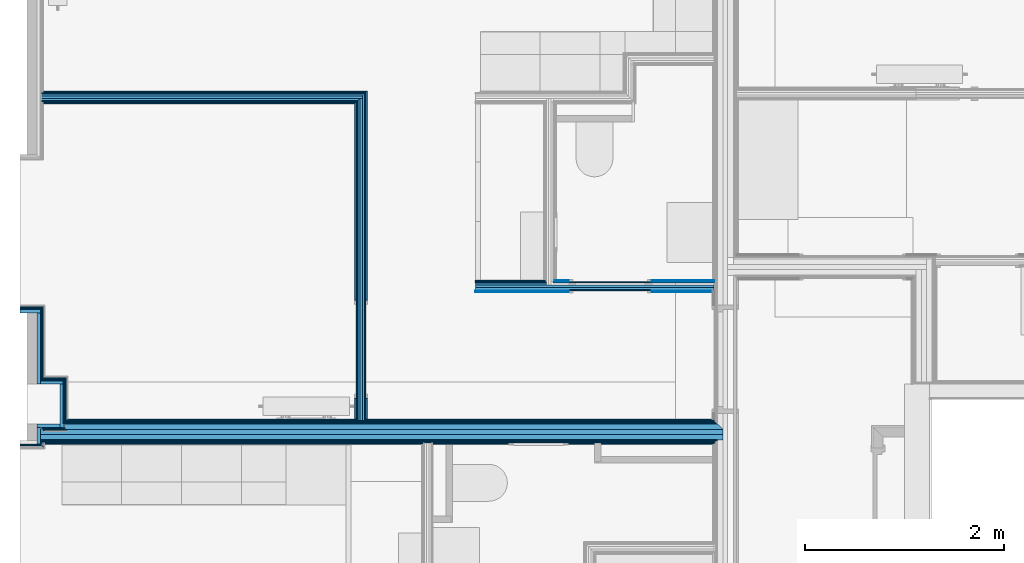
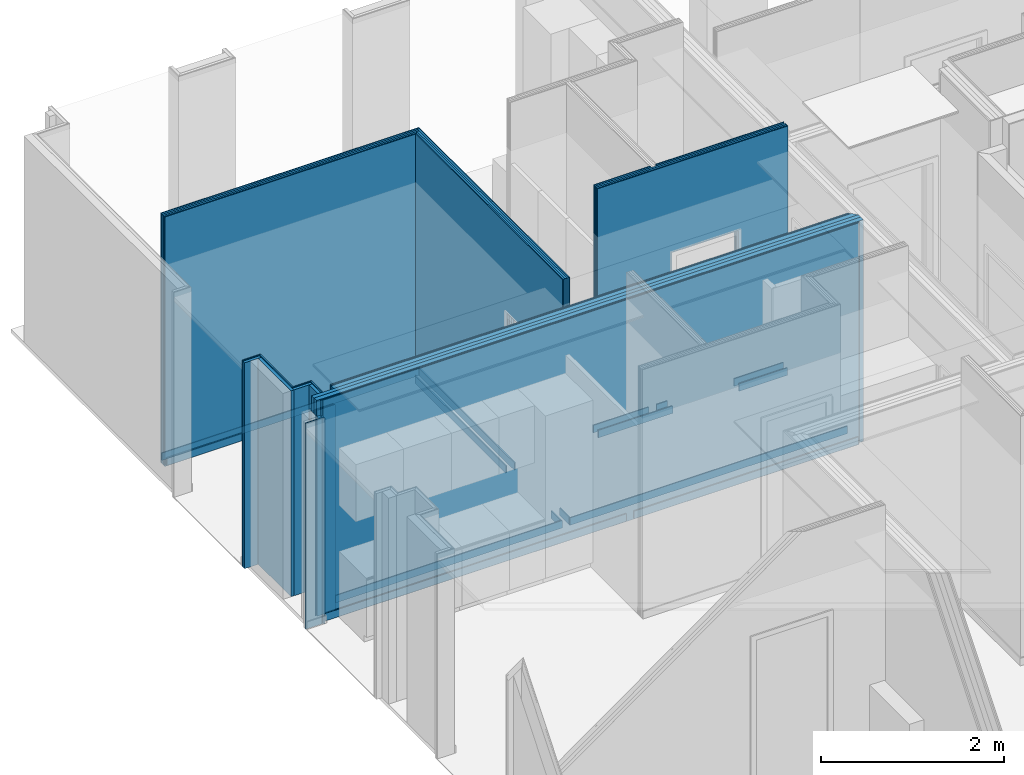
# One storey, part 16 of 65: 53 building element parts, 2 openings, 11 elements without a shape of their own.
"""IFC2X3 building model written with IfcOpenShell, lengths in metres."""

from ifc_helpers import new_model, entity, si_unit, converted_unit, derived_unit, money_unit, direction, frame, frame_2d, origin_with_axes, place, context, subcontext, project, spatial, polyline, rectangle, outline, extrude, material, type_object, element, aggregate, save


model = new_model("IFC2X3")

# Units and contexts
model_context = context("Model", 3, precision=1e-05, world=origin_with_axes(), true_north=direction((0.0, 1.0)))
body_context = subcontext(model_context, "Body", "Model", "MODEL_VIEW", scale=1.0)
ifc_project = project(units=[si_unit("LENGTHUNIT", "METRE"), si_unit("AREAUNIT", "SQUARE_METRE"), si_unit("VOLUMEUNIT", "CUBIC_METRE"), si_unit("ABSORBEDDOSEUNIT", "GRAY"), si_unit("AMOUNTOFSUBSTANCEUNIT", "MOLE"), si_unit("DOSEEQUIVALENTUNIT", "SIEVERT"), si_unit("ELECTRICCAPACITANCEUNIT", "FARAD"), si_unit("ELECTRICCHARGEUNIT", "COULOMB"), si_unit("ELECTRICCONDUCTANCEUNIT", "SIEMENS"), si_unit("ELECTRICCURRENTUNIT", "AMPERE"), si_unit("ELECTRICRESISTANCEUNIT", "OHM"), si_unit("ELECTRICVOLTAGEUNIT", "VOLT"), si_unit("ENERGYUNIT", "JOULE"), si_unit("FORCEUNIT", "NEWTON"), si_unit("FREQUENCYUNIT", "HERTZ"), si_unit("ILLUMINANCEUNIT", "LUX"), si_unit("INDUCTANCEUNIT", "HENRY"), si_unit("LUMINOUSFLUXUNIT", "LUMEN"), si_unit("LUMINOUSINTENSITYUNIT", "CANDELA"), si_unit("MAGNETICFLUXDENSITYUNIT", "TESLA"), si_unit("MAGNETICFLUXUNIT", "WEBER"), si_unit("MASSUNIT", "GRAM"), converted_unit("PLANEANGLEUNIT", "degree", entity("IfcReal", 0.0174532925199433), si_unit("PLANEANGLEUNIT", "RADIAN"), dimensions=[0, 0, 0, 0, 0, 0, 0]), si_unit("POWERUNIT", "WATT"), si_unit("PRESSUREUNIT", "PASCAL"), si_unit("RADIOACTIVITYUNIT", "BECQUEREL"), si_unit("SOLIDANGLEUNIT", "STERADIAN"), si_unit("THERMODYNAMICTEMPERATUREUNIT", "KELVIN"), si_unit("TIMEUNIT", "SECOND"), derived_unit("ACCELERATIONUNIT", [(si_unit("LENGTHUNIT", "METRE"), 1), (si_unit("TIMEUNIT", "SECOND"), -2)]), derived_unit("ANGULARVELOCITYUNIT", [(converted_unit("PLANEANGLEUNIT", "degree", entity("IfcReal", 0.0174532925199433), si_unit("PLANEANGLEUNIT", "RADIAN"), dimensions=[0, 0, 0, 0, 0, 0, 0]), 1), (si_unit("TIMEUNIT", "SECOND"), -1)]), derived_unit("CURVATUREUNIT", [(converted_unit("PLANEANGLEUNIT", "degree", entity("IfcReal", 0.0174532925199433), si_unit("PLANEANGLEUNIT", "RADIAN"), dimensions=[0, 0, 0, 0, 0, 0, 0]), 1), (si_unit("LENGTHUNIT", "METRE"), -1)]), derived_unit("DYNAMICVISCOSITYUNIT", [(si_unit("PRESSUREUNIT", "PASCAL"), 1), (si_unit("TIMEUNIT", "SECOND"), 1)]), derived_unit("HEATFLUXDENSITYUNIT", [(si_unit("POWERUNIT", "WATT"), 1), (si_unit("LENGTHUNIT", "METRE"), -2)]), derived_unit("HEATINGVALUEUNIT", [(si_unit("ENERGYUNIT", "JOULE"), 1), (si_unit("MASSUNIT", "GRAM"), -1)]), derived_unit("INTEGERCOUNTRATEUNIT", [(si_unit("TIMEUNIT", "SECOND"), -1)]), derived_unit("IONCONCENTRATIONUNIT", [(si_unit("MASSUNIT", "GRAM"), 1), (si_unit("VOLUMEUNIT", "CUBIC_METRE"), -1)]), derived_unit("ISOTHERMALMOISTURECAPACITYUNIT", [(si_unit("VOLUMEUNIT", "CUBIC_METRE"), 1), (si_unit("MASSUNIT", "GRAM"), -1)]), derived_unit("KINEMATICVISCOSITYUNIT", [(si_unit("AREAUNIT", "SQUARE_METRE"), 1), (si_unit("TIMEUNIT", "SECOND"), -1)]), derived_unit("LINEARFORCEUNIT", [(si_unit("FORCEUNIT", "NEWTON"), 1), (si_unit("LENGTHUNIT", "METRE"), -1)]), derived_unit("LINEARMOMENTUNIT", [(si_unit("FORCEUNIT", "NEWTON"), 1), (si_unit("LENGTHUNIT", "METRE"), -1)]), derived_unit("LINEARSTIFFNESSUNIT", [(si_unit("FORCEUNIT", "NEWTON"), 1), (si_unit("LENGTHUNIT", "METRE"), -1)]), derived_unit("LINEARVELOCITYUNIT", [(si_unit("LENGTHUNIT", "METRE"), 1), (si_unit("TIMEUNIT", "SECOND"), -1)]), derived_unit("LUMINOUSINTENSITYDISTRIBUTIONUNIT", [(si_unit("LUMINOUSINTENSITYUNIT", "CANDELA"), 1), (si_unit("LUMINOUSFLUXUNIT", "LUMEN"), -1)]), derived_unit("MASSDENSITYUNIT", [(si_unit("MASSUNIT", "GRAM"), 1), (si_unit("VOLUMEUNIT", "CUBIC_METRE"), -1)]), derived_unit("MASSFLOWRATEUNIT", [(si_unit("MASSUNIT", "GRAM"), 1), (si_unit("TIMEUNIT", "SECOND"), -1)]), derived_unit("MASSPERLENGTHUNIT", [(si_unit("MASSUNIT", "GRAM"), 1), (si_unit("LENGTHUNIT", "METRE"), -1)]), derived_unit("MODULUSOFELASTICITYUNIT", [(si_unit("FORCEUNIT", "NEWTON"), 1), (si_unit("AREAUNIT", "SQUARE_METRE"), -1)]), derived_unit("MODULUSOFLINEARSUBGRADEREACTIONUNIT", [(si_unit("FORCEUNIT", "NEWTON"), 1), (si_unit("LENGTHUNIT", "METRE"), -2)]), derived_unit("MODULUSOFROTATIONALSUBGRADEREACTIONUNIT", [(si_unit("FORCEUNIT", "NEWTON"), 1), (si_unit("LENGTHUNIT", "METRE"), 1)]), derived_unit("MODULUSOFSUBGRADEREACTIONUNIT", [(si_unit("FORCEUNIT", "NEWTON"), 1), (si_unit("VOLUMEUNIT", "CUBIC_METRE"), -1)]), derived_unit("MOISTUREDIFFUSIVITYUNIT", [(si_unit("VOLUMEUNIT", "CUBIC_METRE"), 1), (si_unit("TIMEUNIT", "SECOND"), -1)]), derived_unit("MOLECULARWEIGHTUNIT", [(si_unit("MASSUNIT", "GRAM"), 1), (si_unit("AMOUNTOFSUBSTANCEUNIT", "MOLE"), -1)]), derived_unit("PLANARFORCEUNIT", [(si_unit("FORCEUNIT", "NEWTON"), 1), (si_unit("LENGTHUNIT", "METRE"), -2)]), derived_unit("ROTATIONALFREQUENCYUNIT", [(si_unit("TIMEUNIT", "SECOND"), -1)]), derived_unit("ROTATIONALMASSUNIT", [(si_unit("MASSUNIT", "GRAM"), 1), (si_unit("LENGTHUNIT", "METRE"), 2)]), derived_unit("ROTATIONALSTIFFNESSUNIT", [(si_unit("FORCEUNIT", "NEWTON"), 1), (si_unit("LENGTHUNIT", "METRE"), 1), (converted_unit("PLANEANGLEUNIT", "degree", entity("IfcReal", 0.0174532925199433), si_unit("PLANEANGLEUNIT", "RADIAN"), dimensions=[0, 0, 0, 0, 0, 0, 0]), -1)]), derived_unit("SECTIONAREAINTEGRALUNIT", [(si_unit("LENGTHUNIT", "METRE"), 5)]), derived_unit("SECTIONMODULUSUNIT", [(si_unit("LENGTHUNIT", "METRE"), 3)]), derived_unit("SHEARMODULUSUNIT", [(si_unit("FORCEUNIT", "NEWTON"), 1), (si_unit("AREAUNIT", "SQUARE_METRE"), -1)]), derived_unit("SOUNDPOWERUNIT", [(si_unit("ENERGYUNIT", "JOULE"), 1), (si_unit("TIMEUNIT", "SECOND"), -1)]), derived_unit("SPECIFICHEATCAPACITYUNIT", [(si_unit("FORCEUNIT", "NEWTON"), 1), (si_unit("MASSUNIT", "GRAM"), -1), (si_unit("THERMODYNAMICTEMPERATUREUNIT", "KELVIN"), -1)]), derived_unit("TEMPERATUREGRADIENTUNIT", [(si_unit("THERMODYNAMICTEMPERATUREUNIT", "KELVIN"), 1), (si_unit("LENGTHUNIT", "METRE"), -1)]), derived_unit("THERMALADMITTANCEUNIT", [(si_unit("POWERUNIT", "WATT"), 1), (si_unit("AREAUNIT", "SQUARE_METRE"), -1), (si_unit("THERMODYNAMICTEMPERATUREUNIT", "KELVIN"), -1)]), derived_unit("THERMALCONDUCTANCEUNIT", [(si_unit("POWERUNIT", "WATT"), 1), (si_unit("LENGTHUNIT", "METRE"), -1), (si_unit("THERMODYNAMICTEMPERATUREUNIT", "KELVIN"), -1)]), derived_unit("THERMALEXPANSIONCOEFFICIENTUNIT", [(si_unit("THERMODYNAMICTEMPERATUREUNIT", "KELVIN"), -1)]), derived_unit("THERMALRESISTANCEUNIT", [(si_unit("AREAUNIT", "SQUARE_METRE"), 1), (si_unit("POWERUNIT", "WATT"), -1)]), derived_unit("THERMALTRANSMITTANCEUNIT", [(si_unit("POWERUNIT", "WATT"), 1), (si_unit("AREAUNIT", "SQUARE_METRE"), -1), (si_unit("THERMODYNAMICTEMPERATUREUNIT", "KELVIN"), -1)]), derived_unit("TORQUEUNIT", [(si_unit("FORCEUNIT", "NEWTON"), 1), (si_unit("LENGTHUNIT", "METRE"), 1)]), derived_unit("VAPORPERMEABILITYUNIT", [(si_unit("MASSUNIT", "GRAM"), 1), (si_unit("TIMEUNIT", "SECOND"), -1)]), derived_unit("VOLUMETRICFLOWRATEUNIT", [(si_unit("VOLUMEUNIT", "CUBIC_METRE"), 1), (si_unit("TIMEUNIT", "SECOND"), -1)]), derived_unit("WARPINGCONSTANTUNIT", [(si_unit("LENGTHUNIT", "METRE"), 6)]), derived_unit("WARPINGMOMENTUNIT", [(si_unit("FORCEUNIT", "NEWTON"), 1), (si_unit("LENGTHUNIT", "METRE"), 2)]), money_unit("GBP")], contexts=[model_context])

# Site, building, storey
site_placement = place(None, origin_with_axes())
site = spatial("IfcSite", under=ifc_project, at=site_placement, Name="Site", CompositionType="ELEMENT")
building_placement = place(site_placement, origin_with_axes())
building = spatial("IfcBuilding", under=site, at=building_placement, Name="Building01", CompositionType="ELEMENT")
storey_placement = place(building_placement, frame((0.0, 0.0, 8.64), z_axis=(0.0, 0.0, 1.0), x_axis=(1.0, 0.0, 0.0)))
storey = spatial("IfcBuildingStorey", under=building, at=storey_placement, Name="2F", CompositionType="ELEMENT", Elevation=8.64)

# Wall, building element parts
wall_type_1 = type_object("IfcWallType", Name="SHE_A-Walls_Type01c_Partywall_225mm_twin_tall", PredefinedType="NOTDEFINED")
wall_1_placement = place(storey_placement, frame((7.151669, 8.34767, 0.0), z_axis=(0.0, 0.0, 1.0), x_axis=(-1.0, 0.0, 0.0)))
wall_1 = element("IfcWall", 1, at=wall_1_placement, inside=storey, type_object=wall_type_1, Name="1C", ObjectType="SHE_A-Walls_Type01c_Partywall_225mm_twin_tall")
ifc_material_1 = material(Name="A_BSUK_Walls_Timber")
placement_1 = place(wall_1_placement, origin_with_axes())
building_element_part_1 = element("IfcBuildingElementPart", 2, at=placement_1, material=ifc_material_1, Name="1", context=body_context, shape_type="SweptSolid", body=[
    extrude(rectangle(XDim=3.495, YDim=0.015, at=frame_2d((1.8345, -0.0955), x_axis=(-1.0, 0.0))), frame((0.0, 0.0, 0.015), z_axis=(0.0, 0.0, 1.0), x_axis=(1.0, 0.0, 0.0)), (0.0, 0.0, 1.0), 0.1),
])
building_element_part_2 = element("IfcBuildingElementPart", 3, at=placement_1, material=ifc_material_1, Name="2", context=body_context, shape_type="SweptSolid", body=[
    extrude(rectangle(XDim=2.911669, YDim=0.015, at=frame_2d((5.132834, -0.0955), x_axis=(-1.0, 0.0))), frame((0.0, 0.0, 0.015), z_axis=(0.0, 0.0, 1.0), x_axis=(1.0, 0.0, 0.0)), (0.0, 0.0, 1.0), 0.1),
])
ifc_material_2 = material(Name="A_BSUK_WallInternal_Finishes_Plasterboard")
building_element_part_3 = element("IfcBuildingElementPart", 4, at=placement_1, material=ifc_material_2, Name="3", context=body_context, shape_type="SweptSolid", body=[
    extrude(outline(polyline([(6.603669, -0.073), (0.072, -0.073), (0.087, -0.088), (6.603669, -0.088), (6.603669, -0.073)])), origin_with_axes(), (0.0, 0.0, 1.0), 2.95),
])
building_element_part_4 = element("IfcBuildingElementPart", 5, at=placement_1, material=ifc_material_2, Name="4", context=body_context, shape_type="SweptSolid", body=[
    extrude(outline(polyline([(6.603669, -0.058), (0.057, -0.058), (0.072, -0.073), (6.603669, -0.073), (6.603669, -0.058)])), origin_with_axes(), (0.0, 0.0, 1.0), 2.95),
])
ifc_material_3 = material(Name="Air Cavity")
building_element_part_5 = element("IfcBuildingElementPart", 6, at=placement_1, material=ifc_material_3, Name="5", context=body_context, shape_type="SweptSolid", body=[
    extrude(outline(polyline([(6.603669, 0.0), (-0.001, 0.0), (0.057, -0.058), (6.603669, -0.058), (6.603669, 0.0)])), origin_with_axes(), (0.0, 0.0, 1.0), 2.95),
])
ifc_material_4 = material(Name="A_BSUK_Insulation")
building_element_part_6 = element("IfcBuildingElementPart", 7, at=placement_1, material=ifc_material_4, Name="6", context=body_context, shape_type="SweptSolid", body=[
    extrude(rectangle(XDim=6.881669, YDim=0.05, at=frame_2d((3.440834, 0.025), x_axis=(-1.0, 0.0))), origin_with_axes(), (0.0, 0.0, 1.0), 2.95),
])
building_element_part_7 = element("IfcBuildingElementPart", 8, at=placement_1, material=ifc_material_3, Name="7", context=body_context, shape_type="SweptSolid", body=[
    extrude(rectangle(XDim=6.881669, YDim=0.057, at=frame_2d((3.440834, 0.0785), x_axis=(-1.0, 0.0))), origin_with_axes(), (0.0, 0.0, 1.0), 2.95),
])
building_element_part_8 = element("IfcBuildingElementPart", 9, at=placement_1, material=ifc_material_2, Name="8", context=body_context, shape_type="SweptSolid", body=[
    extrude(rectangle(XDim=6.776669, YDim=0.015, at=frame_2d((3.445334, 0.1145), x_axis=(-1.0, 0.0))), origin_with_axes(), (0.0, 0.0, 1.0), 2.95),
])
building_element_part_9 = element("IfcBuildingElementPart", 10, at=placement_1, material=ifc_material_2, Name="9", context=body_context, shape_type="SweptSolid", body=[
    extrude(rectangle(XDim=6.746669, YDim=0.015, at=frame_2d((3.445334, 0.1295), x_axis=(-1.0, 0.0))), origin_with_axes(), (0.0, 0.0, 1.0), 2.95),
])
building_element_part_10 = element("IfcBuildingElementPart", 11, at=placement_1, material=ifc_material_1, Name="10", context=body_context, shape_type="SweptSolid", body=[
    extrude(rectangle(XDim=2.823939, YDim=0.015, at=frame_2d((1.498969, 0.1445), x_axis=(-1.0, 0.0))), frame((0.0, 0.0, 0.015), z_axis=(0.0, 0.0, 1.0), x_axis=(1.0, 0.0, 0.0)), (0.0, 0.0, 1.0), 0.1),
])
building_element_part_11 = element("IfcBuildingElementPart", 12, at=placement_1, material=ifc_material_1, Name="11", context=body_context, shape_type="SweptSolid", body=[
    extrude(rectangle(XDim=3.79773, YDim=0.015, at=frame_2d((4.904804, 0.1445), x_axis=(-1.0, 0.0))), frame((0.0, 0.0, 0.015), z_axis=(0.0, 0.0, 1.0), x_axis=(1.0, 0.0, 0.0)), (0.0, 0.0, 1.0), 0.1),
])
aggregate(wall_1, [building_element_part_1, building_element_part_2, building_element_part_3, building_element_part_4, building_element_part_5, building_element_part_6, building_element_part_7, building_element_part_8, building_element_part_9, building_element_part_10, building_element_part_11])

wall_type_2 = type_object("IfcWallType", Name="SHE_A-Walls_Type05a_Partition_95mm_tall", PredefinedType="NOTDEFINED")
wall_2_placement = place(storey_placement, frame((0.318, 11.69067, 0.0), z_axis=(0.0, 0.0, 1.0), x_axis=(1.0, 0.0, 0.0)))
wall_2 = element("IfcWall", 13, at=wall_2_placement, inside=storey, type_object=wall_type_2, Name="5A", ObjectType="SHE_A-Walls_Type05a_Partition_95mm_tall")
placement_2 = place(wall_2_placement, origin_with_axes())
building_element_part_12 = element("IfcBuildingElementPart", 14, at=placement_2, material=ifc_material_1, Name="1", context=body_context, shape_type="SweptSolid", body=[
    extrude(outline(polyline([(3.156669, -0.06), (0.015, -0.06), (0.015, -0.075), (3.141669, -0.075), (3.156669, -0.06)])), frame((0.0, 0.0, 0.015), z_axis=(0.0, 0.0, 1.0), x_axis=(1.0, 0.0, 0.0)), (0.0, 0.0, 1.0), 0.1),
])
building_element_part_13 = element("IfcBuildingElementPart", 15, at=placement_2, material=ifc_material_2, Name="2", context=body_context, shape_type="SweptSolid", body=[
    extrude(outline(polyline([(3.168669, -0.048), (0.0, -0.048), (0.0, -0.06), (3.156669, -0.06), (3.168669, -0.048)])), origin_with_axes(), (0.0, 0.0, 1.0), 3.32),
])
building_element_part_14 = element("IfcBuildingElementPart", 16, at=placement_2, material=ifc_material_3, Name="3", context=body_context, shape_type="SweptSolid", body=[
    extrude(outline(polyline([(3.191669, -0.025), (0.0, -0.025), (0.0, -0.048), (3.168669, -0.048), (3.191669, -0.025)])), origin_with_axes(), (0.0, 0.0, 1.0), 3.32),
])
building_element_part_15 = element("IfcBuildingElementPart", 17, at=placement_2, material=ifc_material_4, Name="4", context=body_context, shape_type="SweptSolid", body=[
    extrude(rectangle(XDim=3.216669, YDim=0.025, at=frame_2d((1.608334, -0.0125), x_axis=(-1.0, 0.0))), origin_with_axes(), (0.0, 0.0, 1.0), 3.32),
])
building_element_part_16 = element("IfcBuildingElementPart", 18, at=placement_2, material=ifc_material_3, Name="5", context=body_context, shape_type="SweptSolid", body=[
    extrude(rectangle(XDim=3.216669, YDim=0.023, at=frame_2d((1.608334, 0.0115), x_axis=(-1.0, 0.0))), origin_with_axes(), (0.0, 0.0, 1.0), 3.32),
])
building_element_part_17 = element("IfcBuildingElementPart", 19, at=placement_2, material=ifc_material_2, Name="6", context=body_context, shape_type="SweptSolid", body=[
    extrude(outline(polyline([(3.251669, 0.035), (0.0, 0.035), (0.0, 0.023), (3.239669, 0.023), (3.251669, 0.035)])), origin_with_axes(), (0.0, 0.0, 1.0), 3.32),
])
building_element_part_18 = element("IfcBuildingElementPart", 20, at=placement_2, material=ifc_material_1, Name="7", context=body_context, shape_type="SweptSolid", body=[
    extrude(outline(polyline([(3.266669, 0.05), (0.015, 0.05), (0.015, 0.035), (3.251669, 0.035), (3.266669, 0.05)])), frame((0.0, 0.0, 0.015), z_axis=(0.0, 0.0, 1.0), x_axis=(1.0, 0.0, 0.0)), (0.0, 0.0, 1.0), 0.1),
])
aggregate(wall_2, [building_element_part_12, building_element_part_13, building_element_part_14, building_element_part_15, building_element_part_16, building_element_part_17, building_element_part_18])

# Wall, opening, building element parts
wall_3_placement = place(storey_placement, frame((7.064669, 9.79567, 0.0), z_axis=(0.0, 0.0, 1.0), x_axis=(-1.0, 0.0, 0.0)))
wall_3 = element("IfcWall", 21, at=wall_3_placement, inside=storey, type_object=wall_type_2, Name="5A", ObjectType="SHE_A-Walls_Type05a_Partition_95mm_tall")
opening_1_placement = place(wall_3_placement, frame((0.624, -0.05, 0.0), z_axis=(0.0, 0.0, 1.0), x_axis=(1.0, 0.0, 0.0)))
element("IfcOpeningElement", 22, at=opening_1_placement, cuts=wall_3, Name="Opening", ObjectType="Opening", context=body_context, shape_type="SweptSolid", body=[
    extrude(rectangle(XDim=2.142, YDim=0.834, at=frame_2d((-0.417, 1.071), x_axis=(0.0, -1.0))), frame((0.0, 0.0, 0.0), z_axis=(0.0, 1.0, 0.0), x_axis=(-1.0, 0.0, 0.0)), (0.0, 0.0, 1.0), 0.125),
])
placement_3 = place(wall_3_placement, origin_with_axes())
building_element_part_19 = element("IfcBuildingElementPart", 23, at=placement_3, material=ifc_material_1, Name="1", context=body_context, shape_type="SweptSolid", body=[
    extrude(rectangle(XDim=1.6, YDim=0.015, at=frame_2d((0.8, -0.0425), x_axis=(-1.0, 0.0))), frame((0.0, 0.0, 0.015), z_axis=(0.0, 0.0, 1.0), x_axis=(1.0, 0.0, 0.0)), (0.0, 0.0, 1.0), 0.1),
])
building_element_part_20 = element("IfcBuildingElementPart", 24, at=placement_3, material=ifc_material_1, Name="2", context=body_context, shape_type="SweptSolid", body=[
    extrude(rectangle(XDim=0.7, YDim=0.015, at=frame_2d((2.045, -0.0425), x_axis=(-1.0, 0.0))), frame((0.0, 0.0, 0.015), z_axis=(0.0, 0.0, 1.0), x_axis=(1.0, 0.0, 0.0)), (0.0, 0.0, 1.0), 0.1),
])
building_element_part_21 = element("IfcBuildingElementPart", 25, at=placement_3, material=ifc_material_2, Name="3", context=body_context, shape_type="SweptSolid", body=[
    extrude(rectangle(XDim=1.612, YDim=0.012, at=frame_2d((0.806, -0.029), x_axis=(-1.0, 0.0))), origin_with_axes(), (0.0, 0.0, 1.0), 3.32),
])
building_element_part_22 = element("IfcBuildingElementPart", 26, at=placement_3, material=ifc_material_2, Name="4", context=body_context, shape_type="SweptSolid", body=[
    extrude(rectangle(XDim=0.712, YDim=0.012, at=frame_2d((2.039, -0.029), x_axis=(-1.0, 0.0))), origin_with_axes(), (0.0, 0.0, 1.0), 3.32),
])
building_element_part_23 = element("IfcBuildingElementPart", 27, at=placement_3, material=ifc_material_3, Name="5", context=body_context, shape_type="SweptSolid", body=[
    extrude(rectangle(XDim=0.712, YDim=0.023, at=frame_2d((2.039, -0.0115), x_axis=(-1.0, 0.0))), origin_with_axes(), (0.0, 0.0, 1.0), 3.32),
])
building_element_part_24 = element("IfcBuildingElementPart", 28, at=placement_3, material=ifc_material_4, Name="6", context=body_context, shape_type="SweptSolid", body=[
    extrude(rectangle(XDim=2.395, YDim=0.025, at=frame_2d((1.1975, 0.0125), x_axis=(-1.0, 0.0))), origin_with_axes(), (0.0, 0.0, 1.0), 3.32),
])
building_element_part_25 = element("IfcBuildingElementPart", 29, at=placement_3, material=ifc_material_3, Name="7", context=body_context, shape_type="SweptSolid", body=[
    extrude(rectangle(XDim=2.395, YDim=0.023, at=frame_2d((1.1975, 0.0365), x_axis=(-1.0, 0.0))), origin_with_axes(), (0.0, 0.0, 1.0), 3.32),
])
building_element_part_26 = element("IfcBuildingElementPart", 30, at=placement_3, material=ifc_material_2, Name="8", context=body_context, shape_type="SweptSolid", body=[
    extrude(rectangle(XDim=2.395, YDim=0.012, at=frame_2d((1.1975, 0.054), x_axis=(-1.0, 0.0))), origin_with_axes(), (0.0, 0.0, 1.0), 3.32),
])
building_element_part_27 = element("IfcBuildingElementPart", 31, at=placement_3, material=ifc_material_1, Name="9", context=body_context, shape_type="SweptSolid", body=[
    extrude(rectangle(XDim=2.38, YDim=0.015, at=frame_2d((1.205, 0.0675), x_axis=(-1.0, 0.0))), frame((0.0, 0.0, 0.015), z_axis=(0.0, 0.0, 1.0), x_axis=(1.0, 0.0, 0.0)), (0.0, 0.0, 1.0), 0.1),
])
aggregate(wall_3, [building_element_part_19, building_element_part_20, building_element_part_21, building_element_part_22, building_element_part_23, building_element_part_24, building_element_part_25, building_element_part_26, building_element_part_27])

wall_4_placement = place(storey_placement, frame((3.534669, 8.43567, 0.0), z_axis=(0.0, 0.0, 1.0), x_axis=(0.0, 1.0, 0.0)))
wall_4 = element("IfcWall", 32, at=wall_4_placement, inside=storey, type_object=wall_type_2, Name="5A", ObjectType="SHE_A-Walls_Type05a_Partition_95mm_tall")
opening_2_placement = place(wall_4_placement, frame((0.223034, -0.05, 0.0), z_axis=(0.0, 0.0, 1.0), x_axis=(1.0, 0.0, 0.0)))
element("IfcOpeningElement", 33, at=opening_2_placement, cuts=wall_4, Name="Opening", ObjectType="Opening", context=body_context, shape_type="SweptSolid", body=[
    extrude(rectangle(XDim=0.984, YDim=2.142, at=frame_2d((-0.492, 1.071), x_axis=(1.0, 0.0))), frame((0.0, 0.0, 0.0), z_axis=(0.0, 1.0, 0.0), x_axis=(-1.0, 0.0, 0.0)), (0.0, 0.0, 1.0), 0.125),
])
placement_4 = place(wall_4_placement, origin_with_axes())
building_element_part_28 = element("IfcBuildingElementPart", 34, at=placement_4, material=ifc_material_1, Name="1", context=body_context, shape_type="SweptSolid", body=[
    extrude(outline(polyline([(3.29, -0.035), (0.015, -0.035), (0.015, -0.05), (3.305, -0.05), (3.29, -0.035)])), frame((0.0, 0.0, 0.015), z_axis=(0.0, 0.0, 1.0), x_axis=(1.0, 0.0, 0.0)), (0.0, 0.0, 1.0), 0.1),
])
building_element_part_29 = element("IfcBuildingElementPart", 35, at=placement_4, material=ifc_material_2, Name="2", context=body_context, shape_type="SweptSolid", body=[
    extrude(outline(polyline([(3.278, -0.023), (0.0, -0.023), (0.0, -0.035), (3.29, -0.035), (3.278, -0.023)])), origin_with_axes(), (0.0, 0.0, 1.0), 3.32),
])
building_element_part_30 = element("IfcBuildingElementPart", 36, at=placement_4, material=ifc_material_3, Name="3", context=body_context, shape_type="SweptSolid", body=[
    extrude(outline(polyline([(3.255, 0.0), (0.0, 0.0), (0.0, -0.023), (3.278, -0.023), (3.255, 0.0)])), origin_with_axes(), (0.0, 0.0, 1.0), 3.32),
])
building_element_part_31 = element("IfcBuildingElementPart", 37, at=placement_4, material=ifc_material_4, Name="4", context=body_context, shape_type="SweptSolid", body=[
    extrude(rectangle(XDim=3.23, YDim=0.025, at=frame_2d((1.615, 0.0125), x_axis=(-1.0, 0.0))), origin_with_axes(), (0.0, 0.0, 1.0), 3.32),
])
building_element_part_32 = element("IfcBuildingElementPart", 38, at=placement_4, material=ifc_material_3, Name="5", context=body_context, shape_type="SweptSolid", body=[
    extrude(rectangle(XDim=3.23, YDim=0.023, at=frame_2d((1.615, 0.0365), x_axis=(-1.0, 0.0))), origin_with_axes(), (0.0, 0.0, 1.0), 3.32),
])
building_element_part_33 = element("IfcBuildingElementPart", 39, at=placement_4, material=ifc_material_2, Name="6", context=body_context, shape_type="SweptSolid", body=[
    extrude(outline(polyline([(3.195, 0.06), (0.0, 0.06), (0.0, 0.048), (3.207, 0.048), (3.195, 0.06)])), origin_with_axes(), (0.0, 0.0, 1.0), 3.32),
])
building_element_part_34 = element("IfcBuildingElementPart", 40, at=placement_4, material=ifc_material_1, Name="7", context=body_context, shape_type="SweptSolid", body=[
    extrude(outline(polyline([(3.18, 0.075), (0.015, 0.075), (0.015, 0.06), (3.195, 0.06), (3.18, 0.075)])), frame((0.0, 0.0, 0.015), z_axis=(0.0, 0.0, 1.0), x_axis=(1.0, 0.0, 0.0)), (0.0, 0.0, 1.0), 0.1),
])
aggregate(wall_4, [building_element_part_28, building_element_part_29, building_element_part_30, building_element_part_31, building_element_part_32, building_element_part_33, building_element_part_34])

# Wall, building element part
wall_type_3 = type_object("IfcWallType", Name="SHE_A-Walls_Type06f_ExternalWallInsulation_48+15mm", PredefinedType="NOTDEFINED")
wall_5_placement = place(storey_placement, frame((0.27, 8.233, 0.0), z_axis=(0.0, 0.0, 1.0), x_axis=(-1.0, 0.0, 0.0)))
wall_5 = element("IfcWall", 41, at=wall_5_placement, inside=storey, type_object=wall_type_3, Name="6F", ObjectType="SHE_A-Walls_Type06f_ExternalWallInsulation_48+15mm")
building_element_part_35_placement = place(wall_5_placement, origin_with_axes())
building_element_part_35 = element("IfcBuildingElementPart", 42, at=building_element_part_35_placement, material=ifc_material_2, Name="2", context=body_context, shape_type="SweptSolid", body=[
    extrude(rectangle(XDim=0.206, YDim=0.012, at=frame_2d((0.067, 0.042), x_axis=(-1.0, 0.0))), origin_with_axes(), (0.0, 0.0, 1.0), 2.74),
])
aggregate(wall_5, [building_element_part_35])

# Wall, building element parts
wall_6_placement = place(storey_placement, frame((0.5, 8.4, 0.0), z_axis=(0.0, 0.0, 1.0), x_axis=(1.0, 0.0, 0.0)))
wall_6 = element("IfcWall", 43, at=wall_6_placement, inside=storey, type_object=wall_type_3, Name="6F", ObjectType="SHE_A-Walls_Type06f_ExternalWallInsulation_48+15mm")
placement_5 = place(wall_6_placement, origin_with_axes())
building_element_part_36 = element("IfcBuildingElementPart", 44, at=placement_5, material=ifc_material_2, Name="2", context=body_context, shape_type="SweptSolid", body=[
    extrude(outline(polyline([(-0.167, -0.063), (0.063, -0.063), (0.048, -0.048), (-0.167, -0.048), (-0.167, -0.063)])), origin_with_axes(), (0.0, 0.0, 1.0), 2.74),
])
building_element_part_37 = element("IfcBuildingElementPart", 45, at=placement_5, material=ifc_material_2, Name="3", context=body_context, shape_type="SweptSolid", body=[
    extrude(rectangle(XDim=0.23, YDim=0.012, at=frame_2d((-0.067, -0.042), x_axis=(1.0, 0.0))), origin_with_axes(), (0.0, 0.0, 1.0), 2.74),
])
building_element_part_38 = element("IfcBuildingElementPart", 46, at=placement_5, material=ifc_material_4, Name="4", context=body_context, shape_type="SweptSolid", body=[
    extrude(rectangle(XDim=0.23, YDim=0.036, at=frame_2d((-0.115, -0.018), x_axis=(1.0, 0.0))), origin_with_axes(), (0.0, 0.0, 1.0), 2.74),
])
aggregate(wall_6, [building_element_part_36, building_element_part_37, building_element_part_38])

wall_7_placement = place(storey_placement, frame((0.5, 8.8, 0.0), z_axis=(0.0, 0.0, 1.0), x_axis=(0.0, 1.0, 0.0)))
wall_7 = element("IfcWall", 47, at=wall_7_placement, inside=storey, type_object=wall_type_3, Name="6F", ObjectType="SHE_A-Walls_Type06f_ExternalWallInsulation_48+15mm")
placement_6 = place(wall_7_placement, origin_with_axes())
building_element_part_39 = element("IfcBuildingElementPart", 48, at=placement_6, material=ifc_material_2, Name="2", context=body_context, shape_type="SweptSolid", body=[
    extrude(outline(polyline([(-0.36433, -0.063), (0.063, -0.063), (0.048, -0.048), (-0.36433, -0.048), (-0.36433, -0.063)])), origin_with_axes(), (0.0, 0.0, 1.0), 2.74),
])
building_element_part_40 = element("IfcBuildingElementPart", 49, at=placement_6, material=ifc_material_2, Name="3", context=body_context, shape_type="SweptSolid", body=[
    extrude(rectangle(XDim=0.43033, YDim=0.012, at=frame_2d((-0.179165, -0.042), x_axis=(1.0, 0.0))), origin_with_axes(), (0.0, 0.0, 1.0), 2.74),
])
building_element_part_41 = element("IfcBuildingElementPart", 50, at=placement_6, material=ifc_material_4, Name="4", context=body_context, shape_type="SweptSolid", body=[
    extrude(rectangle(XDim=0.436, YDim=0.036, at=frame_2d((-0.218, -0.018), x_axis=(1.0, 0.0))), origin_with_axes(), (0.0, 0.0, 1.0), 2.74),
])
aggregate(wall_7, [building_element_part_39, building_element_part_40, building_element_part_41])

wall_8_placement = place(storey_placement, frame((0.306, 8.8, 0.0), z_axis=(0.0, 0.0, 1.0), x_axis=(-1.0, 0.0, 0.0)))
wall_8 = element("IfcWall", 51, at=wall_8_placement, inside=storey, type_object=wall_type_3, Name="6F", ObjectType="SHE_A-Walls_Type06f_ExternalWallInsulation_48+15mm")
placement_7 = place(wall_8_placement, origin_with_axes())
building_element_part_42 = element("IfcBuildingElementPart", 52, at=placement_7, material=ifc_material_2, Name="2", context=body_context, shape_type="SweptSolid", body=[
    extrude(outline(polyline([(-0.257, -0.063), (-0.027, -0.063), (-0.012, -0.048), (-0.242, -0.048), (-0.257, -0.063)])), origin_with_axes(), (0.0, 0.0, 1.0), 2.74),
])
building_element_part_43 = element("IfcBuildingElementPart", 53, at=placement_7, material=ifc_material_2, Name="3", context=body_context, shape_type="SweptSolid", body=[
    extrude(rectangle(XDim=0.242, YDim=0.012, at=frame_2d((-0.121, -0.042), x_axis=(1.0, 0.0))), origin_with_axes(), (0.0, 0.0, 1.0), 2.74),
])
building_element_part_44 = element("IfcBuildingElementPart", 54, at=placement_7, material=ifc_material_4, Name="4", context=body_context, shape_type="SweptSolid", body=[
    extrude(rectangle(XDim=0.23, YDim=0.036, at=frame_2d((-0.115, -0.018), x_axis=(1.0, 0.0))), origin_with_axes(), (0.0, 0.0, 1.0), 2.74),
])
aggregate(wall_8, [building_element_part_42, building_element_part_43, building_element_part_44])

wall_9_placement = place(storey_placement, frame((0.27, 9.51418, 0.0), z_axis=(0.0, 0.0, 1.0), x_axis=(0.0, 1.0, 0.0)))
wall_9 = element("IfcWall", 55, at=wall_9_placement, inside=storey, type_object=wall_type_3, Name="6F", ObjectType="SHE_A-Walls_Type06f_ExternalWallInsulation_48+15mm")
placement_8 = place(wall_9_placement, origin_with_axes())
building_element_part_45 = element("IfcBuildingElementPart", 56, at=placement_8, material=ifc_material_2, Name="2", context=body_context, shape_type="SweptSolid", body=[
    extrude(outline(polyline([(-0.65118, -0.063), (0.063, -0.063), (0.048, -0.048), (-0.66618, -0.048), (-0.65118, -0.063)])), origin_with_axes(), (0.0, 0.0, 1.0), 2.74),
])
building_element_part_46 = element("IfcBuildingElementPart", 57, at=placement_8, material=ifc_material_2, Name="3", context=body_context, shape_type="SweptSolid", body=[
    extrude(rectangle(XDim=0.71418, YDim=0.012, at=frame_2d((-0.30909, -0.042), x_axis=(1.0, 0.0))), origin_with_axes(), (0.0, 0.0, 1.0), 2.74),
])
building_element_part_47 = element("IfcBuildingElementPart", 58, at=placement_8, material=ifc_material_4, Name="4", context=body_context, shape_type="SweptSolid", body=[
    extrude(rectangle(XDim=0.71418, YDim=0.036, at=frame_2d((-0.35709, -0.018), x_axis=(1.0, 0.0))), origin_with_axes(), (0.0, 0.0, 1.0), 2.74),
])
aggregate(wall_9, [building_element_part_45, building_element_part_46, building_element_part_47])

wall_10_placement = place(storey_placement, frame((0.1, 9.51418, 0.0), z_axis=(0.0, 0.0, 1.0), x_axis=(-1.0, 0.0, 0.0)))
wall_10 = element("IfcWall", 59, at=wall_10_placement, inside=storey, type_object=wall_type_3, Name="6F", ObjectType="SHE_A-Walls_Type06f_ExternalWallInsulation_48+15mm")
placement_9 = place(wall_10_placement, origin_with_axes())
building_element_part_48 = element("IfcBuildingElementPart", 60, at=placement_9, material=ifc_material_2, Name="2", context=body_context, shape_type="SweptSolid", body=[
    extrude(outline(polyline([(-0.233, -0.063), (0.0, -0.063), (0.0, -0.048), (-0.218, -0.048), (-0.233, -0.063)])), origin_with_axes(), (0.0, 0.0, 1.0), 2.74),
])
building_element_part_49 = element("IfcBuildingElementPart", 61, at=placement_9, material=ifc_material_2, Name="3", context=body_context, shape_type="SweptSolid", body=[
    extrude(rectangle(XDim=0.206, YDim=0.012, at=frame_2d((-0.103, -0.042), x_axis=(1.0, 0.0))), origin_with_axes(), (0.0, 0.0, 1.0), 2.74),
])
building_element_part_50 = element("IfcBuildingElementPart", 62, at=placement_9, material=ifc_material_4, Name="4", context=body_context, shape_type="SweptSolid", body=[
    extrude(rectangle(XDim=0.206, YDim=0.036, at=frame_2d((-0.103, -0.018), x_axis=(1.0, 0.0))), origin_with_axes(), (0.0, 0.0, 1.0), 2.74),
])
aggregate(wall_10, [building_element_part_48, building_element_part_49, building_element_part_50])

wall_11_placement = place(storey_placement, frame((0.27, 8.197, 0.0), z_axis=(0.0, 0.0, 1.0), x_axis=(0.0, 1.0, 0.0)))
wall_11 = element("IfcWall", 63, at=wall_11_placement, inside=storey, type_object=wall_type_3, Name="6F", ObjectType="SHE_A-Walls_Type06f_ExternalWallInsulation_48+15mm")
placement_10 = place(wall_11_placement, origin_with_axes())
building_element_part_51 = element("IfcBuildingElementPart", 64, at=placement_10, material=ifc_material_2, Name="2", context=body_context, shape_type="SweptSolid", body=[
    extrude(outline(polyline([(0.02867, -0.048), (-0.012, -0.048), (-0.027, -0.063), (0.02867, -0.063), (0.02867, -0.048)])), origin_with_axes(), (0.0, 0.0, 1.0), 2.74),
])
building_element_part_52 = element("IfcBuildingElementPart", 65, at=placement_10, material=ifc_material_2, Name="3", context=body_context, shape_type="SweptSolid", body=[
    extrude(rectangle(XDim=0.05567, YDim=0.012, at=frame_2d((0.015835, -0.042), x_axis=(-1.0, 0.0))), origin_with_axes(), (0.0, 0.0, 1.0), 2.74),
])
building_element_part_53 = element("IfcBuildingElementPart", 66, at=placement_10, material=ifc_material_4, Name="4", context=body_context, shape_type="SweptSolid", body=[
    extrude(rectangle(XDim=0.167, YDim=0.036, at=frame_2d((0.0835, -0.018), x_axis=(-1.0, 0.0))), origin_with_axes(), (0.0, 0.0, 1.0), 2.74),
])
aggregate(wall_11, [building_element_part_51, building_element_part_52, building_element_part_53])

save(model, "model.ifc")
